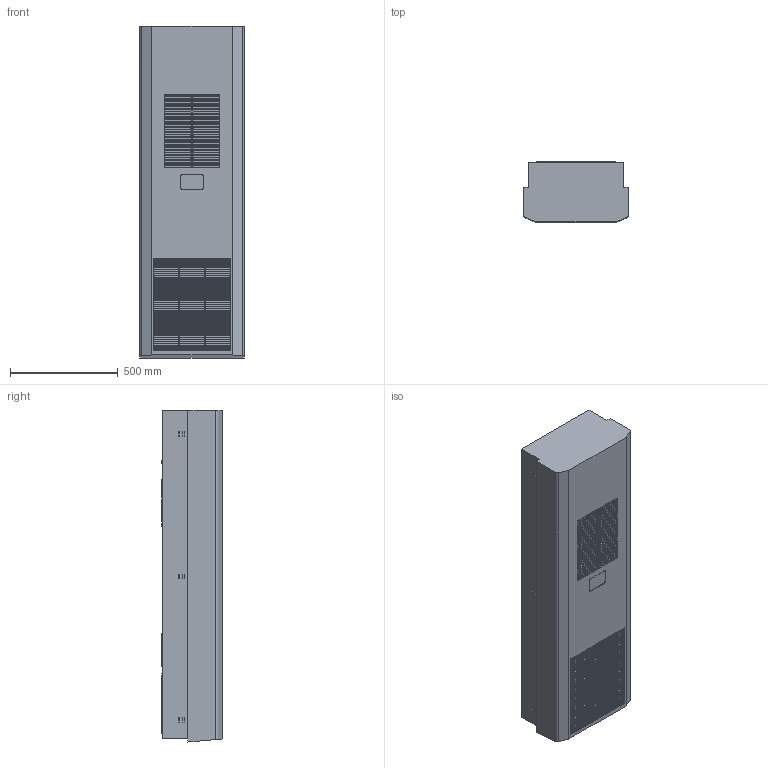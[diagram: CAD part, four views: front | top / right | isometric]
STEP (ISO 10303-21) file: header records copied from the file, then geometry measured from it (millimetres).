
FILE_DESCRIPTION (( 'STEP AP203' ), '1' );
FILE_NAME ('DTI 64_6501 GS CON_CLEAN_STEP.STEP', '2026-04-30T14:54:39', ( '' ), ( '' ), 'SwSTEP 2.0', 'SolidWorks 2024', '' );
FILE_SCHEMA (( 'CONFIG_CONTROL_DESIGN' ));
Length unit declared in the file: millimetre
Products named in the file (1): DTI 64_6501 GS CON_CLEAN_STEP
Bounding box: 485 x 280.06 x 1537.64 mm (x, y, z)
Volume: 193406362.8 mm3; surface area: 2708488.1 mm2
Topology: 1 solids, 1 shells, 1186 faces, 2839 edges, 1892 vertices
Faces by surface type: plane 753, cylinder 433
Full cylindrical faces by diameter (mm): 6.9 x8, 13 x8, 174.2 x1
Entity records: 34481 total; most frequent: DIRECTION 6054, CARTESIAN_POINT 5913, ORIENTED_EDGE 5644, EDGE_CURVE 2822, AXIS2_PLACEMENT_3D 2049, VECTOR 1956, LINE 1956, VERTEX_POINT 1892
